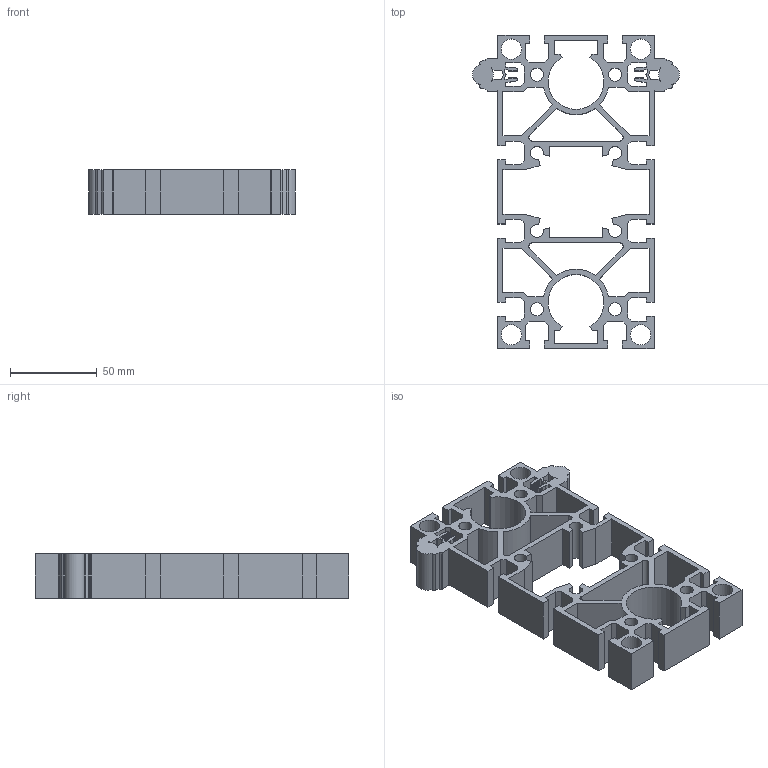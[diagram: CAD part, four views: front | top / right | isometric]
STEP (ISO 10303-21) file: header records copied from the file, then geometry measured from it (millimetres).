
FILE_DESCRIPTION((''),'2;1');
FILE_NAME('C:\Documents and Settings\Administrator\My Documents\Andys Backup Data\STEP LIBRARIES\MINITEC STEP LIBRARIES\READY FOR USE MODULES LR\28.0011_2 RAIL 180 H.stp','2008-10-28T14:41:24',('Administrator'),(''),'Autodesk Inventor 2009','Autodesk Inventor 2009','');
FILE_SCHEMA(('AUTOMOTIVE_DESIGN { 1 0 10303 214 1 1 1 1 }'));
Length unit declared in the file: inch
Products named in the file (1): 28.0011_2 RAIL 180 H
Bounding box: 118.96 x 180 x 25.4 mm (x, y, z)
Volume: 123163.3 mm3; surface area: 77803.6 mm2
Topology: 1 solids, 1 shells, 438 faces, 1308 edges, 872 vertices
Faces by surface type: plane 306, cylinder 132
Full cylindrical faces by diameter (mm): 7.5 x4, 11.7 x4
Entity records: 14748 total; most frequent: CARTESIAN_POINT 2611, ORIENTED_EDGE 2600, DIRECTION 2442, EDGE_CURVE 1300, VECTOR 1036, LINE 1036, VERTEX_POINT 872, AXIS2_PLACEMENT_3D 703
